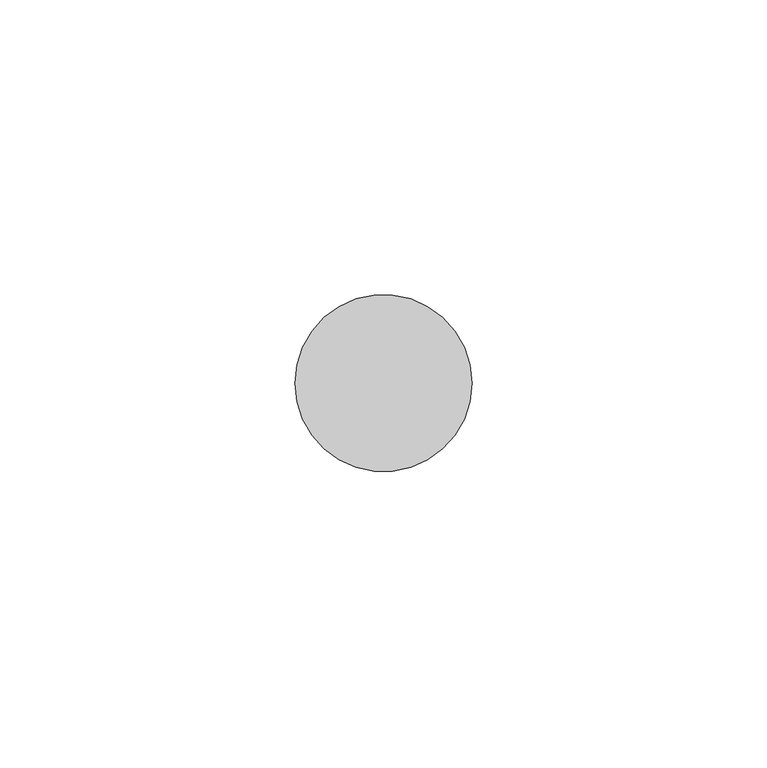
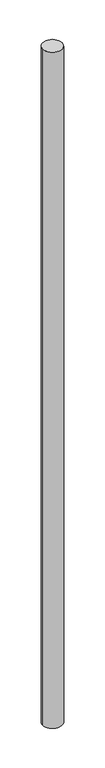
"""IFC4 building model written with IfcOpenShell, lengths in millimetres: proxy geometry, 玄関手摺子2 : 玄関手摺子."""

import ifcopenshell
import ifcopenshell.guid

model = None  # the IFC model being written
_history = None  # IfcOwnerHistory: only IFC2X3 demands one
_inside = {}  # id of a spatial element -> (the spatial element, [elements in it])
_under = {}  # id of a project, library or spatial element -> (it, [spatial elements below it])
_declared = {}  # id of a project -> (the project, [libraries it declares])
_typed = {}  # id of a type object -> (the type object, [elements of that type])
_made_of = {}  # id of a material, layer set ... -> (it, [elements and type objects made of it])


def new_model(schema):
    """Start an empty IFC model of exactly this schema.

    Asked for "IFC4X3", IfcOpenShell would pick the latest addendum, in which some entities
    have other attributes; the version numbers below select the first issue.
    IFC2X3 requires an IfcOwnerHistory on every rooted entity: one is made here for all.
    """
    global model, _history
    if schema == "IFC4X3":
        model = ifcopenshell.file(schema_version=(4, 3, 0, 0))
    else:
        model = ifcopenshell.file(schema=schema)
    _inside.clear()
    _under.clear()
    _declared.clear()
    _typed.clear()
    _made_of.clear()
    _history = None
    if model.schema == "IFC2X3":
        org = make("IfcOrganization", Name="unknown")
        user = make(
            "IfcPersonAndOrganization",
            ThePerson=make("IfcPerson", FamilyName="unknown"),
            TheOrganization=org,
        )
        app = make(
            "IfcApplication",
            ApplicationDeveloper=org,
            Version="unknown",
            ApplicationFullName="unknown",
            ApplicationIdentifier="unknown",
        )
        _history = make(
            "IfcOwnerHistory",
            OwningUser=user,
            OwningApplication=app,
            ChangeAction="ADDED",
            CreationDate=0,
        )
    return model


def make(cls, **values):
    """One entity of the class cls with the attributes given. An attribute that is None is left unset."""
    return model.create_entity(
        cls, **{name: value for name, value in values.items() if value is not None}
    )


def rooted(cls, **values):
    """An entity with a GlobalId (a new one), such as an element, a storey or a relation."""
    return make(cls, GlobalId=ifcopenshell.guid.new(), OwnerHistory=_history, **values)


def si_unit(unit_type, name, prefix=None):
    """IfcSIUnit, for example si_unit("LENGTHUNIT", "METRE", prefix="MILLI")."""
    return make("IfcSIUnit", UnitType=unit_type, Prefix=prefix, Name=name)


def assignment(units):
    """IfcUnitAssignment: the units of a project."""
    return None if units is None else make("IfcUnitAssignment", Units=units)


def point(xyz):
    """IfcCartesianPoint."""
    return None if xyz is None else make("IfcCartesianPoint", Coordinates=xyz)


def direction(xyz):
    """IfcDirection."""
    return None if xyz is None else make("IfcDirection", DirectionRatios=xyz)


def frame(location, z_axis=None, x_axis=None):
    """IfcAxis2Placement3D, a coordinate frame: its origin and axes. An axis left out is left unset."""
    return make(
        "IfcAxis2Placement3D",
        Location=point(location),
        Axis=direction(z_axis),
        RefDirection=direction(x_axis),
    )


def frame_2d(location, x_axis=None):
    """IfcAxis2Placement2D, a coordinate frame in the plane: its origin and x axis."""
    return make(
        "IfcAxis2Placement2D", Location=point(location), RefDirection=direction(x_axis)
    )


def origin():
    """The frame at (0, 0, 0) with its axes left unset."""
    return frame((0.0, 0.0, 0.0))


def place(relative_to, where):
    """IfcLocalPlacement: puts the frame where relative to a parent placement (None: the world)."""
    return make(
        "IfcLocalPlacement", PlacementRelTo=relative_to, RelativePlacement=where
    )


def context(
    kind, dimensions, precision=None, world=None, true_north=None, identifier=None
):
    """IfcGeometricRepresentationContext, for example the 3D "Model" context."""
    return make(
        "IfcGeometricRepresentationContext",
        ContextIdentifier=identifier,
        ContextType=kind,
        CoordinateSpaceDimension=dimensions,
        Precision=precision,
        WorldCoordinateSystem=world,
        TrueNorth=true_north,
    )


def project(units=None, contexts=None):
    """IfcProject with its units and contexts."""
    return rooted(
        "IfcProject",
        Name="project",
        RepresentationContexts=contexts,
        UnitsInContext=assignment(units),
    )


def spatial(cls, under=None, at=None, **own):
    """A site, building, storey or space (cls), placed at a placement, below another one or the project."""
    s = rooted(cls, ObjectPlacement=at, **own)
    if under is not None:
        _under.setdefault(under.id(), (under, []))[1].append(s)
    return s


def circle_curve(where, radius):
    """IfcCircle in the frame where."""
    return make("IfcCircle", Position=where, Radius=radius)


def trimmed(basis, trim1, trim2, sense, master):
    """IfcTrimmedCurve: the piece of a basis curve between two trims."""
    return make(
        "IfcTrimmedCurve",
        BasisCurve=basis,
        Trim1=trim1,
        Trim2=trim2,
        SenseAgreement=sense,
        MasterRepresentation=master,
    )


def segment(curve, same_sense, transition):
    """IfcCompositeCurveSegment."""
    return make(
        "IfcCompositeCurveSegment",
        Transition=transition,
        SameSense=same_sense,
        ParentCurve=curve,
    )


def composite_curve(segments, self_intersect=None):
    """IfcCompositeCurve: segments joined end to end."""
    return make("IfcCompositeCurve", Segments=segments, SelfIntersect=self_intersect)


def outline(outer, holes=None, kind="AREA"):
    """IfcArbitraryClosedProfileDef: a profile drawn as a closed curve; with holes, ...WithVoids."""
    if holes is None:
        return make("IfcArbitraryClosedProfileDef", ProfileType=kind, OuterCurve=outer)
    return make(
        "IfcArbitraryProfileDefWithVoids",
        ProfileType=kind,
        OuterCurve=outer,
        InnerCurves=holes,
    )


def extrude(swept, where, along, depth):
    """IfcExtrudedAreaSolid: the profile swept, set in the frame where, extruded along a direction by depth."""
    return make(
        "IfcExtrudedAreaSolid",
        SweptArea=swept,
        Position=where,
        ExtrudedDirection=direction(along),
        Depth=depth,
    )


def shape(context_of_items, identifier, shape_type, items):
    """IfcShapeRepresentation: the items that make up one representation, for example the "Body"."""
    return make(
        "IfcShapeRepresentation",
        ContextOfItems=context_of_items,
        RepresentationIdentifier=identifier,
        RepresentationType=shape_type,
        Items=items,
    )


def source(mapping_origin, context_of_items, identifier, shape_type, items):
    """IfcRepresentationMap: a shape defined once, which mapped items show again and again."""
    return make(
        "IfcRepresentationMap",
        MappingOrigin=mapping_origin,
        MappedRepresentation=shape(context_of_items, identifier, shape_type, items),
    )


def transform(
    local_origin,
    x_axis=None,
    y_axis=None,
    z_axis=None,
    scale=None,
    scale2=None,
    scale3=None,
    uniform=True,
):
    """IfcCartesianTransformationOperator3D, or its non-uniform kind. x_axis, y_axis, z_axis: its Axis1, 2, 3."""
    if uniform:
        return make(
            "IfcCartesianTransformationOperator3D",
            Axis1=direction(x_axis),
            Axis2=direction(y_axis),
            LocalOrigin=point(local_origin),
            Scale=scale,
            Axis3=direction(z_axis),
        )
    return make(
        "IfcCartesianTransformationOperator3DnonUniform",
        Axis1=direction(x_axis),
        Axis2=direction(y_axis),
        LocalOrigin=point(local_origin),
        Scale=scale,
        Axis3=direction(z_axis),
        Scale2=scale2,
        Scale3=scale3,
    )


def mapped(mapping_source, mapping_target):
    """IfcMappedItem: shows the shape of a source again, moved by a transform."""
    return make(
        "IfcMappedItem", MappingSource=mapping_source, MappingTarget=mapping_target
    )


def made_of(thing, what):
    """Note that an element or type object is made of a material, layer set ...; save() writes the relation."""
    if what is not None:
        _made_of.setdefault(what.id(), (what, []))[1].append(thing)
    return thing


def element(
    cls,
    number,
    at=None,
    inside=None,
    cuts=None,
    type_object=None,
    material=None,
    context=None,
    identifier="Body",
    shape_type=None,
    held_by="IfcProductDefinitionShape",
    body=None,
    shapes=None,
    **own,
):
    """One element of the class cls, such as IfcWall. Its Tag is "e" and its number.

    at: its placement. inside: the storey or other place that contains it. cuts: it is an
    opening in that element (IfcRelVoidsElement). A single representation is given by context,
    identifier, shape_type and body (its items); several are given by shapes. held_by: the class
    of the entity that holds the representations. save() writes the other relations.
    """
    e = rooted(cls, Tag="e%d" % number, ObjectPlacement=at, **own)
    if body is not None:
        shapes = [shape(context, identifier, shape_type, body)]
    if shapes is not None:
        e.Representation = make(held_by, Representations=shapes)
    if inside is not None:
        _inside.setdefault(inside.id(), (inside, []))[1].append(e)
    if cuts is not None:
        rooted(
            "IfcRelVoidsElement", RelatingBuildingElement=cuts, RelatedOpeningElement=e
        )
    if type_object is not None:
        _typed.setdefault(type_object.id(), (type_object, []))[1].append(e)
    return made_of(e, material)


def aggregate(whole, parts):
    """IfcRelAggregates: a whole, such as a stair, and the parts it consists of."""
    return rooted("IfcRelAggregates", RelatingObject=whole, RelatedObjects=parts)


def save(model, path):
    """Write the relations noted so far, then the file.

    IfcRelAggregates (storeys below a building ...), IfcRelContainedInSpatialStructure (elements
    in a storey), IfcRelDefinesByType, IfcRelAssociatesMaterial and IfcRelDeclares: one each for
    every whole, place, type object, material and project.
    """
    for whole, parts in _under.values():
        aggregate(whole, parts)
    for where, things in _inside.values():
        rooted(
            "IfcRelContainedInSpatialStructure",
            RelatedElements=things,
            RelatingStructure=where,
        )
    for kind, things in _typed.values():
        rooted("IfcRelDefinesByType", RelatedObjects=things, RelatingType=kind)
    for what, things in _made_of.values():
        rooted("IfcRelAssociatesMaterial", RelatedObjects=things, RelatingMaterial=what)
    for by, libraries in _declared.values():
        rooted("IfcRelDeclares", RelatingContext=by, RelatedDefinitions=libraries)
    model.write(path)


def generic_models_c4b8308b(model_context):
    return source(origin(), model_context, "Body", "SweptSolid", [
        extrude(outline(composite_curve([segment(trimmed(circle_curve(frame_2d((5486.0811431, -8207.0139126)), 15.0), [point((5471.0811431, -8207.0139126))], [point((5501.0811431, -8207.0139126))], False, "CARTESIAN"), True, "CONTINUOUS"), segment(trimmed(circle_curve(frame_2d((5486.0811431, -8207.0139126)), 15.0), [point((5501.0811431, -8207.0139126))], [point((5471.0811431, -8207.0139126))], False, "CARTESIAN"), True, "CONTINUOUS")], self_intersect=False)), frame((0.0, 0.0, -80.0), z_axis=(0.0, 0.0, 1.0), x_axis=(1.0, 0.0, 0.0)), (0.0, 0.0, 1.0), 1110.2528041),
    ])


if __name__ == "__main__":
    model = new_model("IFC4")
    model_context = context("Model", 3, world=origin())
    ifc_project = project(units=[si_unit("LENGTHUNIT", "METRE", prefix="MILLI")], contexts=[model_context])
    site = spatial("IfcSite", under=ifc_project)
    building = spatial("IfcBuilding", under=site)
    placement = place(None, origin())
    generic_models_shape = generic_models_c4b8308b(model_context)
    element("IfcBuildingElementProxy", 1, Name="玄関手摺子2 : 玄関手摺子", ObjectType="玄関手摺子2 : 玄関手摺子", at=placement, inside=building, context=model_context, shape_type="MappedRepresentation", body=[
        mapped(generic_models_shape, transform((0.0, 0.0, 0.0), x_axis=(1.0, 0.0, 0.0), y_axis=(0.0, 1.0, 0.0), z_axis=(0.0, 0.0, 1.0))),
    ])
    save(model, "model.ifc")
